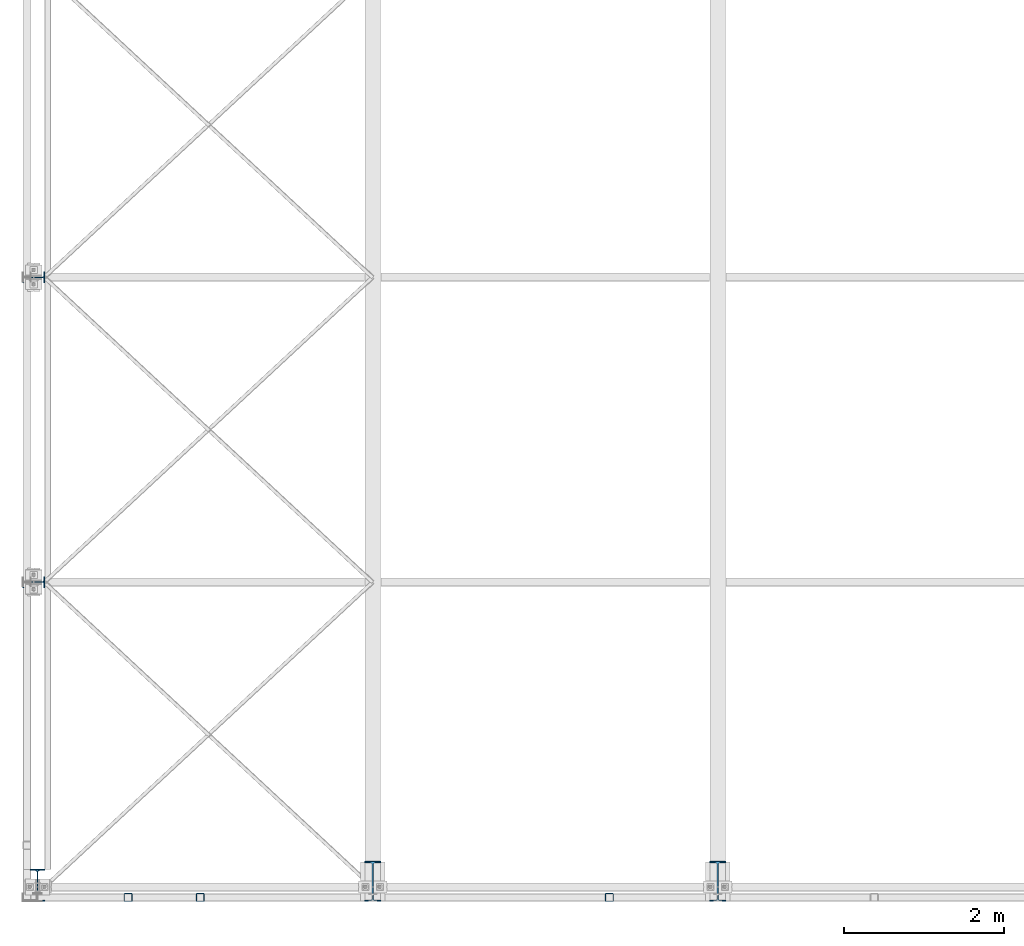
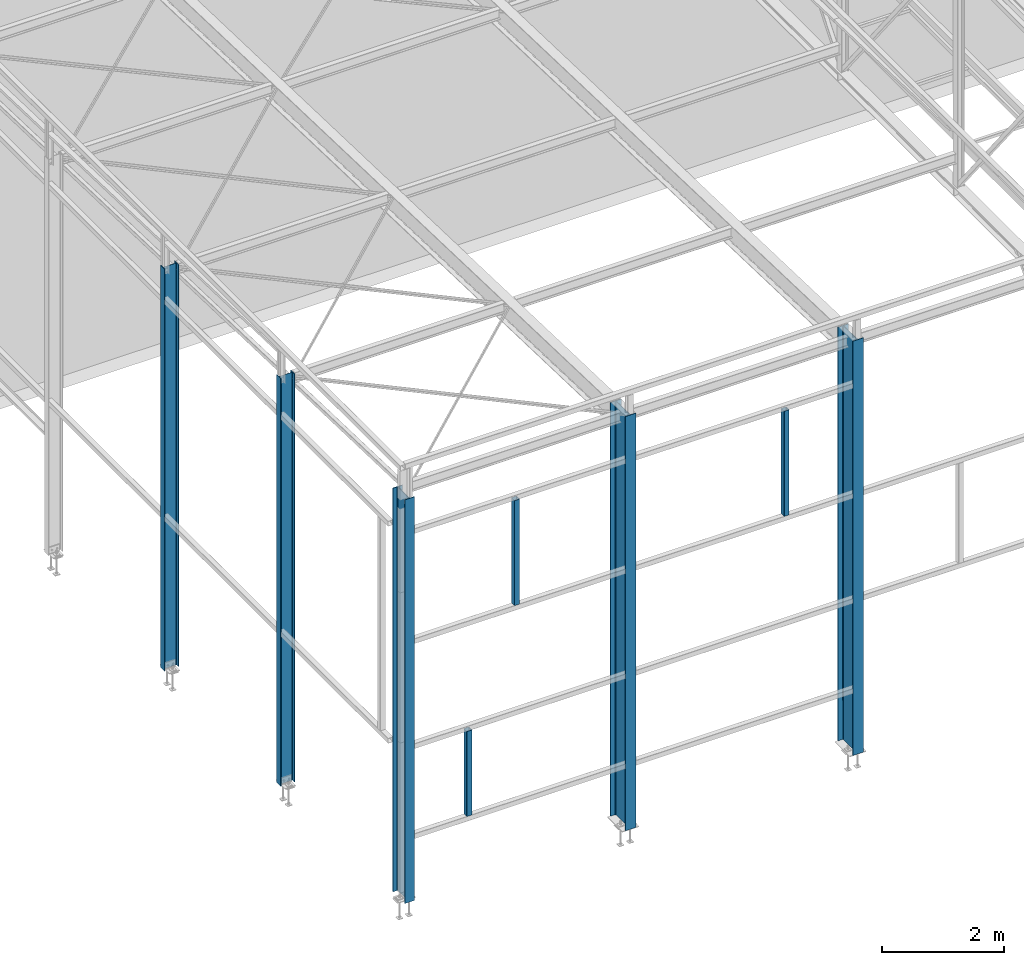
# One storey, part 1 of 123: 8 columns, 8 elements without a shape of their own.
"""IFC2X3 building model written with IfcOpenShell, lengths in millimetres."""

from ifc_helpers import new_model, si_unit, frame, origin_with_axes, origin_2d_with_axis, place, context, subcontext, project, spatial, hollow_rectangle, i_section, extrude, clip, halfspace, material, type_object, element, aggregate, save


model = new_model("IFC2X3")

# Units and contexts
model_context = context("Model", 3, precision=1e-05, world=origin_with_axes())
body_context = subcontext(model_context, "Body", "Model", "MODEL_VIEW")
ifc_project = project(units=[si_unit("LENGTHUNIT", "METRE", prefix="MILLI"), si_unit("AREAUNIT", "SQUARE_METRE"), si_unit("VOLUMEUNIT", "CUBIC_METRE"), si_unit("MASSUNIT", "GRAM", prefix="KILO"), si_unit("TIMEUNIT", "SECOND"), si_unit("PLANEANGLEUNIT", "RADIAN"), si_unit("SOLIDANGLEUNIT", "STERADIAN"), si_unit("THERMODYNAMICTEMPERATUREUNIT", "DEGREE_CELSIUS"), si_unit("LUMINOUSINTENSITYUNIT", "LUMEN")], contexts=[model_context])

# Site, building, storey
site_placement = place(None, origin_with_axes())
site = spatial("IfcSite", under=ifc_project, at=site_placement, Name="Undefined", CompositionType="ELEMENT")
building_placement = place(site_placement, origin_with_axes())
building = spatial("IfcBuilding", under=site, at=building_placement, Name="Undefined", CompositionType="ELEMENT")
storey_placement = place(building_placement, origin_with_axes())
storey = spatial("IfcBuildingStorey", under=building, at=storey_placement, Name="Undefined", CompositionType="ELEMENT", Elevation=0.0)

# Assembly, column
assembly_1_placement = place(storey_placement, origin_with_axes())
assembly_1 = element("IfcElementAssembly", 1, at=assembly_1_placement, inside=storey, Name="Steel Assembly", AssemblyPlace="NOTDEFINED", PredefinedType="RIGID_FRAME")
ifc_material_1 = material(Name="STEEL/S275-E28")
column_type_1 = type_object("IfcColumnType", Name="IPE500", PredefinedType="NOTDEFINED")
column_1_placement = place(assembly_1_placement, frame((8480.0, 70.0, -235.0), z_axis=(0.0, 0.0, 1.0), x_axis=(0.0, 1.0, 0.0)))
column_1 = element("IfcColumn", 2, at=column_1_placement, type_object=column_type_1, material=ifc_material_1, Name="POTEAU", ObjectType="IPE500", context=body_context, shape_type="Clipping", body=[
    clip(extrude(i_section(OverallWidth=200.0, OverallDepth=500.0, WebThickness=10.19999981, FlangeThickness=16.0, FilletRadius=21.0, at=origin_2d_with_axis()), frame((0.0, 0.0, 8284.99544952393), z_axis=(0.0, 0.0, -1.0), x_axis=(0.0, 1.0, 0.0)), (0.0, 0.0, 1.0), 8285.0), halfspace(frame((-250.0, 100.0, 8280.65179104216), z_axis=(0.0314107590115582, 0.0, 0.999506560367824), x_axis=(0.999506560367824, 0.0, -0.0314107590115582)), False)),
])
aggregate(assembly_1, [column_1])

assembly_2_placement = place(storey_placement, origin_with_axes())
assembly_2 = element("IfcElementAssembly", 3, at=assembly_2_placement, inside=storey, Name="Steel Assembly", AssemblyPlace="NOTDEFINED", PredefinedType="RIGID_FRAME")
column_2_placement = place(assembly_2_placement, frame((4180.0, 70.0, -235.0), z_axis=(0.0, 0.0, 1.0), x_axis=(0.0, 1.0, 0.0)))
column_2 = element("IfcColumn", 4, at=column_2_placement, type_object=column_type_1, material=ifc_material_1, Name="POTEAU", ObjectType="IPE500", context=body_context, shape_type="Clipping", body=[
    clip(extrude(i_section(OverallWidth=200.0, OverallDepth=500.0, WebThickness=10.19999981, FlangeThickness=16.0, FilletRadius=21.0, at=origin_2d_with_axis()), frame((0.0, 0.0, 8284.99544952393), z_axis=(0.0, 0.0, -1.0), x_axis=(0.0, 1.0, 0.0)), (0.0, 0.0, 1.0), 8285.0), halfspace(frame((-250.0, 100.0, 8280.65179104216), z_axis=(0.0314107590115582, 0.0, 0.999506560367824), x_axis=(0.999506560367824, 0.0, -0.0314107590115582)), False)),
])
aggregate(assembly_2, [column_2])

assembly_3_placement = place(storey_placement, origin_with_axes())
assembly_3 = element("IfcElementAssembly", 5, at=assembly_3_placement, inside=storey, Name="Steel Assembly", AssemblyPlace="NOTDEFINED", PredefinedType="RIGID_FRAME")
ifc_material_2 = material(Name="STEEL/S235-E24")
column_type_2 = type_object("IfcColumnType", Name="TUBE-C-100*100*4", PredefinedType="NOTDEFINED")
column_3_placement = place(assembly_3_placement, frame((1129.99999963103, -129.999991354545, 1099.99999999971), z_axis=(0.0, 0.0, 1.0), x_axis=(0.0, 1.0, 0.0)))
column_3 = element("IfcColumn", 6, at=column_3_placement, type_object=column_type_2, material=ifc_material_2, Name="MONTANT", ObjectType="TUBE-C-100*100*4", context=body_context, shape_type="SweptSolid", body=[
    extrude(hollow_rectangle(XDim=100.0, YDim=100.0, WallThickness=4.0, InnerFilletRadius=4.0, OuterFilletRadius=8.0, at=origin_2d_with_axis()), frame((0.0, 0.0, 1700.0), z_axis=(0.0, 0.0, -1.0), x_axis=(0.0, 1.0, 0.0)), (0.0, 0.0, 1.0), 1700.0),
])
aggregate(assembly_3, [column_3])

assembly_4_placement = place(storey_placement, origin_with_axes())
assembly_4 = element("IfcElementAssembly", 7, at=assembly_4_placement, inside=storey, Name="Steel Assembly", AssemblyPlace="NOTDEFINED", PredefinedType="RIGID_FRAME")
column_4_placement = place(assembly_4_placement, frame((7130.00258281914, -129.999947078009, 4999.99999999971), z_axis=(0.0, 0.0, 1.0), x_axis=(0.0, 1.0, 0.0)))
column_4 = element("IfcColumn", 8, at=column_4_placement, type_object=column_type_2, material=ifc_material_2, Name="MONTANT", ObjectType="TUBE-C-100*100*4", context=body_context, shape_type="SweptSolid", body=[
    extrude(hollow_rectangle(XDim=100.0, YDim=100.0, WallThickness=4.0, InnerFilletRadius=4.0, OuterFilletRadius=8.0, at=origin_2d_with_axis()), frame((0.0, 0.0, 2100.0), z_axis=(0.0, 0.0, -1.0), x_axis=(0.0, 1.0, 0.0)), (0.0, 0.0, 1.0), 2100.0),
])
aggregate(assembly_4, [column_4])

assembly_5_placement = place(storey_placement, origin_with_axes())
assembly_5 = element("IfcElementAssembly", 9, at=assembly_5_placement, inside=storey, Name="Steel Assembly", AssemblyPlace="NOTDEFINED", PredefinedType="RIGID_FRAME")
column_5_placement = place(assembly_5_placement, frame((2029.99999963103, -129.999984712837, 4999.99999999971), z_axis=(0.0, 0.0, 1.0), x_axis=(0.0, 1.0, 0.0)))
column_5 = element("IfcColumn", 10, at=column_5_placement, type_object=column_type_2, material=ifc_material_2, Name="MONTANT", ObjectType="TUBE-C-100*100*4", context=body_context, shape_type="SweptSolid", body=[
    extrude(hollow_rectangle(XDim=100.0, YDim=100.0, WallThickness=4.0, InnerFilletRadius=4.0, OuterFilletRadius=8.0, at=origin_2d_with_axis()), frame((0.0, 0.0, 2100.0), z_axis=(0.0, 0.0, -1.0), x_axis=(0.0, 1.0, 0.0)), (0.0, 0.0, 1.0), 2100.0),
])
aggregate(assembly_5, [column_5])

assembly_6_placement = place(storey_placement, origin_with_axes())
assembly_6 = element("IfcElementAssembly", 11, at=assembly_6_placement, inside=storey, Name="Steel Assembly", AssemblyPlace="NOTDEFINED", PredefinedType="RIGID_FRAME")
column_type_3 = type_object("IfcColumnType", Name="IPE270", PredefinedType="NOTDEFINED")
column_6_placement = place(assembly_6_placement, frame((-45.0, 3800.0, -230.0), z_axis=(0.0, 0.0, 1.0), x_axis=(-1.0, 0.0, 0.0)))
column_6 = element("IfcColumn", 12, at=column_6_placement, type_object=column_type_3, material=ifc_material_1, Name="POTEAU", ObjectType="IPE270", context=body_context, shape_type="SweptSolid", body=[
    extrude(i_section(OverallWidth=135.0, OverallDepth=270.0, WebThickness=6.599999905, FlangeThickness=10.19999981, FilletRadius=15.0, at=origin_2d_with_axis()), frame((0.0, 0.0, 8154.99916593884), z_axis=(0.0, 0.0, -1.0), x_axis=(0.0, 1.0, 0.0)), (0.0, 0.0, 1.0), 8155.0),
])
aggregate(assembly_6, [column_6])

assembly_7_placement = place(storey_placement, origin_with_axes())
assembly_7 = element("IfcElementAssembly", 13, at=assembly_7_placement, inside=storey, Name="Steel Assembly", AssemblyPlace="NOTDEFINED", PredefinedType="RIGID_FRAME")
column_7_placement = place(assembly_7_placement, frame((-45.0, 7600.0, -230.0), z_axis=(0.0, 0.0, 1.0), x_axis=(-1.0, 0.0, 0.0)))
column_7 = element("IfcColumn", 14, at=column_7_placement, type_object=column_type_3, material=ifc_material_1, Name="POTEAU", ObjectType="IPE270", context=body_context, shape_type="SweptSolid", body=[
    extrude(i_section(OverallWidth=135.0, OverallDepth=270.0, WebThickness=6.599999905, FlangeThickness=10.19999981, FilletRadius=15.0, at=origin_2d_with_axis()), frame((0.0, 0.0, 8035.00041024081), z_axis=(0.0, 0.0, -1.0), x_axis=(0.0, 1.0, 0.0)), (0.0, 0.0, 1.0), 8035.0),
])
aggregate(assembly_7, [column_7])

assembly_8_placement = place(storey_placement, origin_with_axes())
assembly_8 = element("IfcElementAssembly", 15, at=assembly_8_placement, inside=storey, Name="Steel Assembly", AssemblyPlace="NOTDEFINED", PredefinedType="RIGID_FRAME")
column_type_4 = type_object("IfcColumnType", Name="IPE400", PredefinedType="NOTDEFINED")
column_8_placement = place(assembly_8_placement, frame((0.0, 20.0, -230.0), z_axis=(0.0, 0.0, 1.0), x_axis=(0.0, 1.0, 0.0)))
column_8 = element("IfcColumn", 16, at=column_8_placement, type_object=column_type_4, material=ifc_material_1, Name="POTEAU", ObjectType="IPE400", context=body_context, shape_type="SweptSolid", body=[
    extrude(i_section(OverallWidth=180.0, OverallDepth=400.0, WebThickness=8.600000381, FlangeThickness=13.5, FilletRadius=21.0, at=origin_2d_with_axis()), frame((0.0, 0.0, 8069.99544952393), z_axis=(0.0, 0.0, -1.0), x_axis=(0.0, 1.0, 0.0)), (0.0, 0.0, 1.0), 8070.0),
])
aggregate(assembly_8, [column_8])

save(model, "model.ifc")
